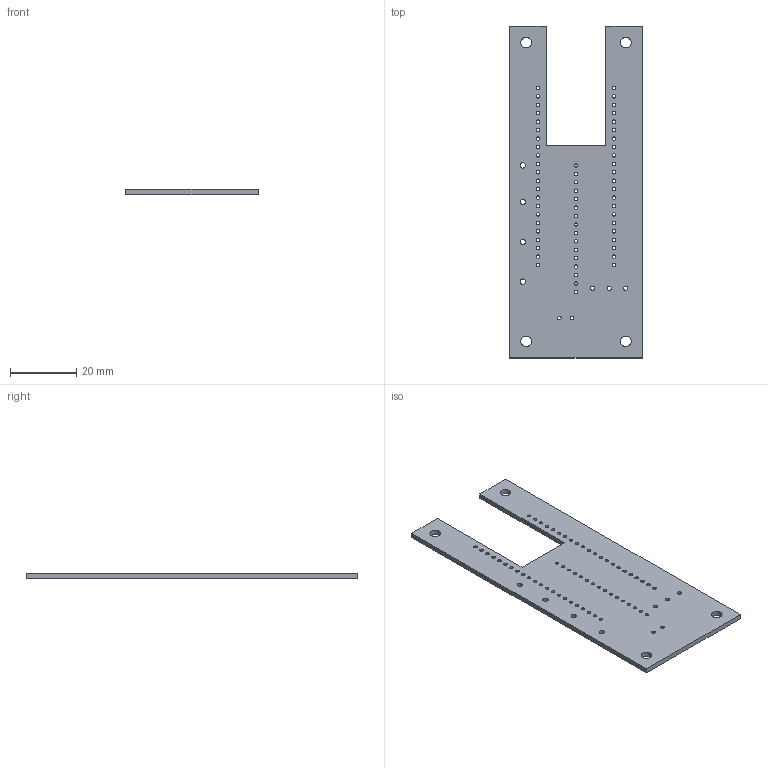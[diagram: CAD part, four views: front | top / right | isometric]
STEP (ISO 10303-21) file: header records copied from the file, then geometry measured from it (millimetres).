
FILE_DESCRIPTION(('KiCad electronic assembly'),'2;1');
FILE_NAME('ILDOCK-S3-A01-bare.step','2026-10-07T05:15:11',('Pcbnew'),( 'Kicad'),'Open CASCADE STEP processor 7.9','KiCad to STEP converter' ,'Unknown');
FILE_SCHEMA(('AUTOMOTIVE_DESIGN { 1 0 10303 214 1 1 1 1 }'));
Length unit declared in the file: millimetre
Products named in the file (2): ILDOCK-S3-A01-bare 1; ILDOCK-S3-A01_PCB
Assembly tree (1 placements, depth 2):
  ILDOCK-S3-A01-bare 1
    ILDOCK-S3-A01_PCB
Bounding box: 40 x 100 x 1.51 mm (x, y, z)
Volume: 4916.5 mm3; surface area: 7456.4 mm2
Topology: 1 solids, 1 shells, 83 faces, 243 edges, 162 vertices
Faces by surface type: cylinder 73, plane 10
Full cylindrical faces by diameter (mm): 1 x16, 1.04 x44, 1.1 x2, 1.3 x3, 1.6 x4, 3.2 x4
Entity records: 3172 total; most frequent: DIRECTION 559, CARTESIAN_POINT 490, ORIENTED_EDGE 486, EDGE_CURVE 243, AXIS2_PLACEMENT_3D 231, FACE_BOUND 229, EDGE_LOOP 229, VERTEX_POINT 162
